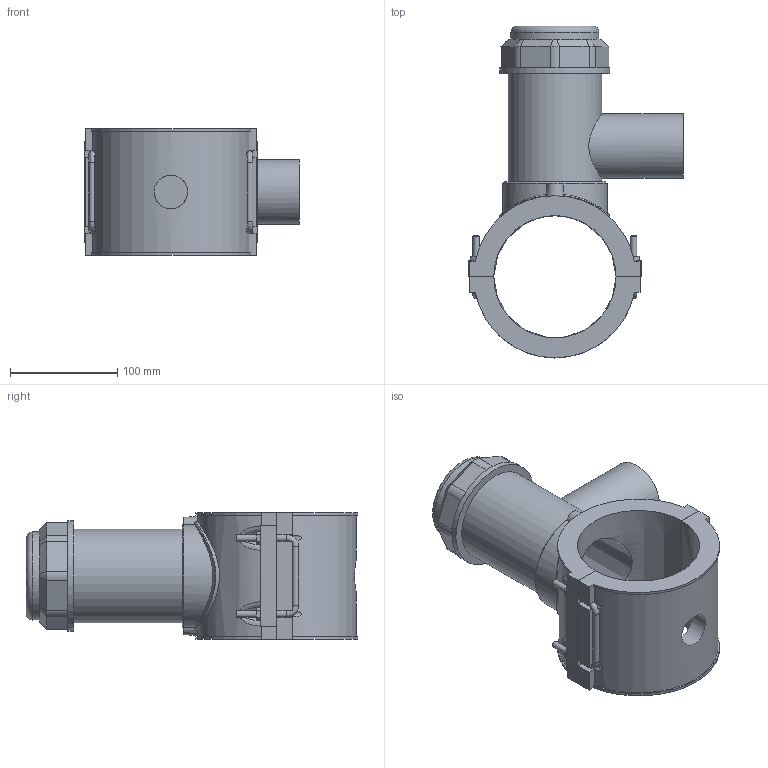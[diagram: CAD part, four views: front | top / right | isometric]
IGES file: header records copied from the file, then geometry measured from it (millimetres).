
Global section: file name: 5963BB03040020.ipt; native system: Autodesk Inventor 2019; preprocessor: unknown; author: KIM; date: 20210830.101405; units: millimetre
Bounding box: 200.39 x 309.74 x 118.11 mm (x, y, z)
Volume: 1432078 mm3; surface area: 240326.4 mm2
Topology: 1 solids, 3 shells, 215 faces, 569 edges, 370 vertices
Faces by surface type: plane 126, cylinder 40, revolution 28, cone 15, bspline 6
Full cylindrical faces by diameter (mm): 6 x8, 60.1 x1, 82.152 x1, 87.287 x1, 97.555 x1, 102.69 x1
